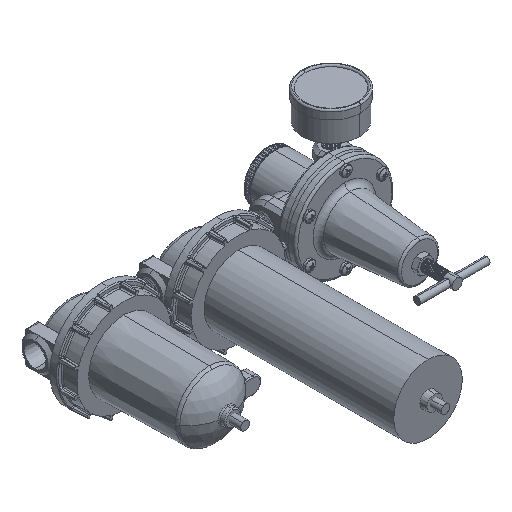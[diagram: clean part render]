
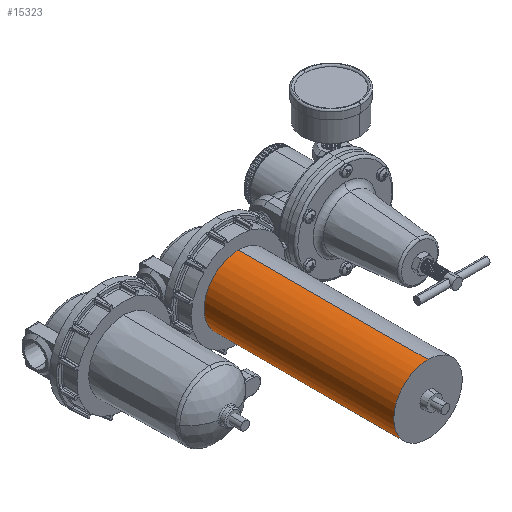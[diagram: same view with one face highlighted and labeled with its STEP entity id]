
A CAD part, isometric view. The second image highlights one B-rep face of the part: STEP entity #15323.
In plain terms, the highlighted cylindrical face has radius 31.5 mm (diameter 63 mm), a partial arc.
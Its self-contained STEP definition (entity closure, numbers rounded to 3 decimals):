
#2920 = EDGE_LOOP ( 'NONE', ( #5602, #30031, #4439, #11332 ) ) ;
#4439 = ORIENTED_EDGE ( 'NONE', *, *, #8249, .T. ) ;
#4705 = AXIS2_PLACEMENT_3D ( 'NONE', #43540, #23330, #9922 ) ;
#5232 = AXIS2_PLACEMENT_3D ( 'NONE', #8864, #15402, #32294 ) ;
#5602 = ORIENTED_EDGE ( 'NONE', *, *, #33650, .F. ) ;
#6512 = DIRECTION ( 'NONE',  ( 0., -1., 0. ) ) ;
#6543 = CARTESIAN_POINT ( 'NONE',  ( 0., 0., 31.5 ) ) ;
#7068 = VERTEX_POINT ( 'NONE', #6543 ) ;
#8249 = EDGE_CURVE ( 'NONE', #17388, #24518, #14117, .T. ) ;
#8257 = AXIS2_PLACEMENT_3D ( 'NONE', #18884, #19022, #15359 ) ;
#8864 = CARTESIAN_POINT ( 'NONE',  ( 0., 0., 0. ) ) ;
#9922 = DIRECTION ( 'NONE',  ( 0., 0., -1. ) ) ;
#11332 = ORIENTED_EDGE ( 'NONE', *, *, #43598, .T. ) ;
#13882 = CARTESIAN_POINT ( 'NONE',  ( 0., 0., -31.5 ) ) ;
#14117 = LINE ( 'NONE', #42640, #41525 ) ;
#15323 = ADVANCED_FACE ( 'NONE', ( #34422 ), #23883, .T. ) ;
#15359 = DIRECTION ( 'NONE',  ( 0., 0., 1. ) ) ;
#15402 = DIRECTION ( 'NONE',  ( 0., 1., 0. ) ) ;
#17388 = VERTEX_POINT ( 'NONE', #27042 ) ;
#18884 = CARTESIAN_POINT ( 'NONE',  ( 0., 174.5, 0. ) ) ;
#19022 = DIRECTION ( 'NONE',  ( 0., 1., 0. ) ) ;
#20095 = CARTESIAN_POINT ( 'NONE',  ( 0., 174.5, 31.5 ) ) ;
#20254 = CIRCLE ( 'NONE', #5232, 31.5 ) ;
#22435 = DIRECTION ( 'NONE',  ( 0., -1., 0. ) ) ;
#23330 = DIRECTION ( 'NONE',  ( 0., -1., 0. ) ) ;
#23883 = CYLINDRICAL_SURFACE ( 'NONE', #4705, 31.5 ) ;
#24518 = VERTEX_POINT ( 'NONE', #13882 ) ;
#26109 = VERTEX_POINT ( 'NONE', #35565 ) ;
#27042 = CARTESIAN_POINT ( 'NONE',  ( 0., 174.5, -31.5 ) ) ;
#30031 = ORIENTED_EDGE ( 'NONE', *, *, #41719, .F. ) ;
#30549 = VECTOR ( 'NONE', #6512, 1000. ) ;
#31931 = CIRCLE ( 'NONE', #8257, 31.5 ) ;
#32294 = DIRECTION ( 'NONE',  ( 0., 0., 1. ) ) ;
#33650 = EDGE_CURVE ( 'NONE', #26109, #7068, #40594, .T. ) ;
#34422 = FACE_OUTER_BOUND ( 'NONE', #2920, .T. ) ;
#35565 = CARTESIAN_POINT ( 'NONE',  ( 0., 174.5, 31.5 ) ) ;
#40594 = LINE ( 'NONE', #20095, #30549 ) ;
#41525 = VECTOR ( 'NONE', #22435, 1000. ) ;
#41719 = EDGE_CURVE ( 'NONE', #17388, #26109, #31931, .T. ) ;
#42640 = CARTESIAN_POINT ( 'NONE',  ( 0., 174.5, -31.5 ) ) ;
#43540 = CARTESIAN_POINT ( 'NONE',  ( 0., 174.5, 0. ) ) ;
#43598 = EDGE_CURVE ( 'NONE', #24518, #7068, #20254, .T. ) ;
